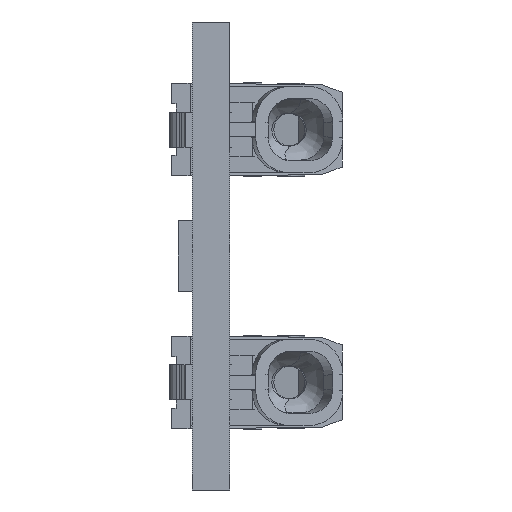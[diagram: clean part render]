
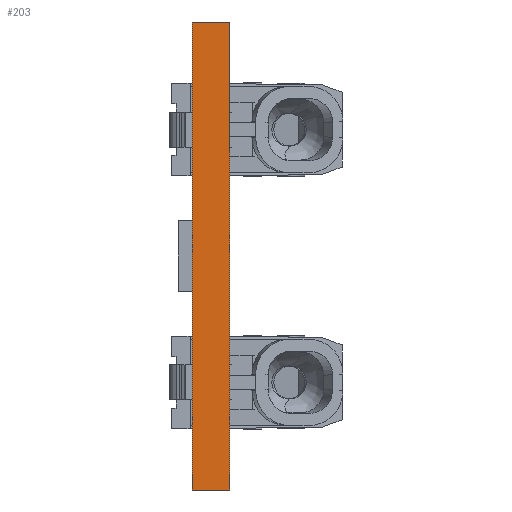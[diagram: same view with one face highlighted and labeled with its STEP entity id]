
A CAD part, left-side view. The second image highlights one B-rep face of the part: STEP entity #203.
In plain terms, the highlighted planar face has unit normal (-1, 0, 0).
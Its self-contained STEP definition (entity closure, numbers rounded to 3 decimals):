
#203 = ADVANCED_FACE ( 'NONE', ( #110625 ), #15122, .F. ) ;
#956 = VERTEX_POINT ( 'NONE', #125422 ) ;
#4133 = CARTESIAN_POINT ( 'NONE',  ( 0., -1.6, 0. ) ) ;
#4607 = AXIS2_PLACEMENT_3D ( 'NONE', #4133, #135403, #92010 ) ;
#7465 = VECTOR ( 'NONE', #41307, 1000. ) ;
#9960 = DIRECTION ( 'NONE',  ( 0., 1., 0. ) ) ;
#13815 = ORIENTED_EDGE ( 'NONE', *, *, #107297, .T. ) ;
#15122 = PLANE ( 'NONE',  #4607 ) ;
#15475 = VECTOR ( 'NONE', #9960, 1000. ) ;
#21012 = CARTESIAN_POINT ( 'NONE',  ( 0., -1.6, -20.003 ) ) ;
#26027 = VERTEX_POINT ( 'NONE', #132501 ) ;
#27501 = EDGE_LOOP ( 'NONE', ( #13815, #127941, #41889, #98543 ) ) ;
#33945 = EDGE_CURVE ( 'NONE', #956, #69716, #132539, .T. ) ;
#40555 = CARTESIAN_POINT ( 'NONE',  ( 0., -1.6, 0. ) ) ;
#41307 = DIRECTION ( 'NONE',  ( 0., 1., 0. ) ) ;
#41889 = ORIENTED_EDGE ( 'NONE', *, *, #70734, .F. ) ;
#56464 = LINE ( 'NONE', #139713, #115019 ) ;
#69716 = VERTEX_POINT ( 'NONE', #116954 ) ;
#70734 = EDGE_CURVE ( 'NONE', #26027, #956, #79101, .T. ) ;
#75644 = VECTOR ( 'NONE', #106458, 1000. ) ;
#79101 = LINE ( 'NONE', #40555, #75644 ) ;
#92010 = DIRECTION ( 'NONE',  ( 0., 0., -1. ) ) ;
#96706 = VERTEX_POINT ( 'NONE', #113535 ) ;
#98543 = ORIENTED_EDGE ( 'NONE', *, *, #116902, .T. ) ;
#106458 = DIRECTION ( 'NONE',  ( 0., 0., -1. ) ) ;
#107297 = EDGE_CURVE ( 'NONE', #96706, #69716, #56464, .T. ) ;
#110625 = FACE_OUTER_BOUND ( 'NONE', #27501, .T. ) ;
#113535 = CARTESIAN_POINT ( 'NONE',  ( 0., 0., -0.003 ) ) ;
#115019 = VECTOR ( 'NONE', #139241, 1000. ) ;
#116902 = EDGE_CURVE ( 'NONE', #26027, #96706, #120983, .T. ) ;
#116954 = CARTESIAN_POINT ( 'NONE',  ( 0., 0., -20.003 ) ) ;
#118311 = CARTESIAN_POINT ( 'NONE',  ( 0., -1.6, -0.003 ) ) ;
#120983 = LINE ( 'NONE', #118311, #7465 ) ;
#125422 = CARTESIAN_POINT ( 'NONE',  ( 0., -1.6, -20.003 ) ) ;
#127941 = ORIENTED_EDGE ( 'NONE', *, *, #33945, .F. ) ;
#132501 = CARTESIAN_POINT ( 'NONE',  ( 0., -1.6, -0.003 ) ) ;
#132539 = LINE ( 'NONE', #21012, #15475 ) ;
#135403 = DIRECTION ( 'NONE',  ( 1., 0., 0. ) ) ;
#139241 = DIRECTION ( 'NONE',  ( 0., 0., -1. ) ) ;
#139713 = CARTESIAN_POINT ( 'NONE',  ( 0., 0., 0. ) ) ;
